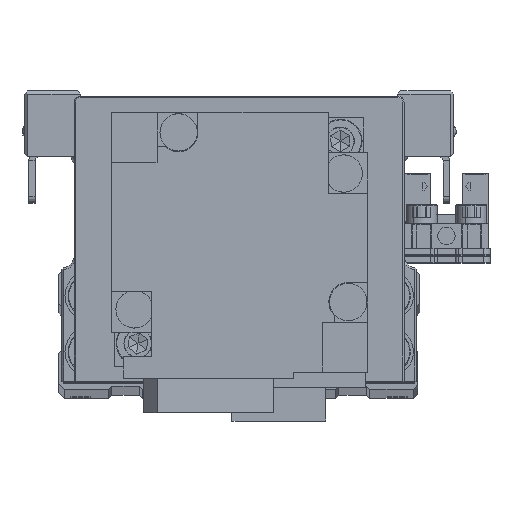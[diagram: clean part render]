
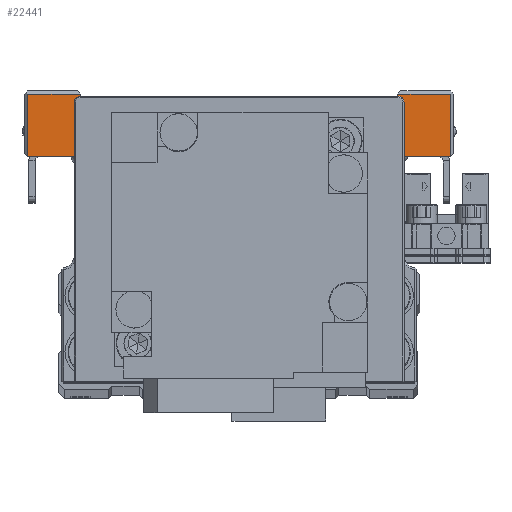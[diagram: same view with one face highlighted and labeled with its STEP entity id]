
A CAD part, top view. The second image highlights one B-rep face of the part: STEP entity #22441.
In plain terms, the highlighted planar face has unit normal (0, 0, 1) as drawn and (1, 0, 0) by its records, which use the part's own axes.
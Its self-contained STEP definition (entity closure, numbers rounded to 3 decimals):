
#28 = EDGE_CURVE ( 'NONE', #35906, #31231, #20257, .T. ) ;
#39 = VERTEX_POINT ( 'NONE', #17435 ) ;
#918 = VECTOR ( 'NONE', #33114, 1000. ) ;
#1526 = ORIENTED_EDGE ( 'NONE', *, *, #27057, .T. ) ;
#1638 = ORIENTED_EDGE ( 'NONE', *, *, #2469, .F. ) ;
#1883 = LINE ( 'NONE', #13274, #29382 ) ;
#2035 = CARTESIAN_POINT ( 'NONE',  ( 25.5, 10.5, -25.5 ) ) ;
#2253 = CARTESIAN_POINT ( 'NONE',  ( 25.5, 5., 34. ) ) ;
#2274 = EDGE_LOOP ( 'NONE', ( #1526, #29052, #21950, #14598, #10586, #31678, #11019, #18398, #1638, #26923, #2854, #8921, #10243, #36244 ) ) ;
#2469 = EDGE_CURVE ( 'NONE', #31203, #39, #24276, .T. ) ;
#2854 = ORIENTED_EDGE ( 'NONE', *, *, #9454, .T. ) ;
#2858 = VERTEX_POINT ( 'NONE', #17650 ) ;
#2953 = CARTESIAN_POINT ( 'NONE',  ( 25.5, 10.5, 25.5 ) ) ;
#4073 = EDGE_CURVE ( 'NONE', #23892, #23522, #19923, .T. ) ;
#4159 = CARTESIAN_POINT ( 'NONE',  ( 25.5, 15., 34. ) ) ;
#5423 = CARTESIAN_POINT ( 'NONE',  ( 25.5, -6., 16.2 ) ) ;
#5715 = DIRECTION ( 'NONE',  ( 0., 0., 1. ) ) ;
#6039 = DIRECTION ( 'NONE',  ( 0., 0., 1. ) ) ;
#6041 = LINE ( 'NONE', #17437, #18494 ) ;
#6072 = EDGE_CURVE ( 'NONE', #31203, #20927, #21732, .T. ) ;
#6759 = CARTESIAN_POINT ( 'NONE',  ( 25.5, 10.5, 25.5 ) ) ;
#7018 = VERTEX_POINT ( 'NONE', #27624 ) ;
#7407 = EDGE_CURVE ( 'NONE', #18502, #16661, #24079, .T. ) ;
#7519 = DIRECTION ( 'NONE',  ( 0., 0., -1. ) ) ;
#8309 = DIRECTION ( 'NONE',  ( 0., -1., 0. ) ) ;
#8921 = ORIENTED_EDGE ( 'NONE', *, *, #4073, .T. ) ;
#9454 = EDGE_CURVE ( 'NONE', #20927, #23892, #6041, .T. ) ;
#9748 = CARTESIAN_POINT ( 'NONE',  ( 25.5, 10.5, -25.5 ) ) ;
#9805 = CARTESIAN_POINT ( 'NONE',  ( 25.5, 5., 16.5 ) ) ;
#9868 = DIRECTION ( 'NONE',  ( 0., -1., 0. ) ) ;
#10056 = DIRECTION ( 'NONE',  ( 0., -1., 0. ) ) ;
#10217 = DIRECTION ( 'NONE',  ( -1., 0., 0. ) ) ;
#10243 = ORIENTED_EDGE ( 'NONE', *, *, #15204, .F. ) ;
#10330 = LINE ( 'NONE', #21740, #918 ) ;
#10586 = ORIENTED_EDGE ( 'NONE', *, *, #20750, .T. ) ;
#10844 = CARTESIAN_POINT ( 'NONE',  ( 25.5, 5., -16.5 ) ) ;
#11019 = ORIENTED_EDGE ( 'NONE', *, *, #28, .F. ) ;
#11188 = EDGE_CURVE ( 'NONE', #35906, #39, #16480, .T. ) ;
#12844 = EDGE_CURVE ( 'NONE', #16661, #25704, #1883, .T. ) ;
#13012 = FACE_OUTER_BOUND ( 'NONE', #2274, .T. ) ;
#13274 = CARTESIAN_POINT ( 'NONE',  ( 25.5, 5., -34.5 ) ) ;
#13427 = DIRECTION ( 'NONE',  ( 0., 0., -1. ) ) ;
#13595 = VECTOR ( 'NONE', #13427, 1000. ) ;
#13875 = CARTESIAN_POINT ( 'NONE',  ( 25.5, -6., -16.2 ) ) ;
#14344 = DIRECTION ( 'NONE',  ( 0., 1., 0. ) ) ;
#14598 = ORIENTED_EDGE ( 'NONE', *, *, #12844, .T. ) ;
#15204 = EDGE_CURVE ( 'NONE', #15326, #23522, #35319, .T. ) ;
#15326 = VERTEX_POINT ( 'NONE', #27462 ) ;
#15558 = DIRECTION ( 'NONE',  ( 0., 0., 1. ) ) ;
#16480 = LINE ( 'NONE', #25085, #33515 ) ;
#16661 = VERTEX_POINT ( 'NONE', #2253 ) ;
#16665 = VECTOR ( 'NONE', #6039, 1000. ) ;
#17435 = CARTESIAN_POINT ( 'NONE',  ( 25.5, -5.7, -16.5 ) ) ;
#17437 = CARTESIAN_POINT ( 'NONE',  ( 25.5, 5., -34. ) ) ;
#17650 = CARTESIAN_POINT ( 'NONE',  ( 25.5, 15., 25.5 ) ) ;
#18274 = VECTOR ( 'NONE', #15558, 1000. ) ;
#18398 = ORIENTED_EDGE ( 'NONE', *, *, #11188, .T. ) ;
#18494 = VECTOR ( 'NONE', #28824, 1000. ) ;
#18502 = VERTEX_POINT ( 'NONE', #24876 ) ;
#19573 = VECTOR ( 'NONE', #14344, 1000. ) ;
#19923 = LINE ( 'NONE', #31307, #24092 ) ;
#20105 = VERTEX_POINT ( 'NONE', #6759 ) ;
#20257 = LINE ( 'NONE', #31631, #16665 ) ;
#20457 = CARTESIAN_POINT ( 'NONE',  ( 25.5, 5., -34. ) ) ;
#20750 = EDGE_CURVE ( 'NONE', #25704, #7018, #22528, .T. ) ;
#20927 = VERTEX_POINT ( 'NONE', #20457 ) ;
#21050 = CARTESIAN_POINT ( 'NONE',  ( 25.5, 15., -34. ) ) ;
#21140 = DIRECTION ( 'NONE',  ( 0., 1., 0. ) ) ;
#21619 = DIRECTION ( 'NONE',  ( 0., 0., 1. ) ) ;
#21732 = LINE ( 'NONE', #33107, #30468 ) ;
#21740 = CARTESIAN_POINT ( 'NONE',  ( 25.5, -6., 16.2 ) ) ;
#21950 = ORIENTED_EDGE ( 'NONE', *, *, #7407, .T. ) ;
#22441 = ADVANCED_FACE ( 'NONE', ( #13012 ), #24424, .F. ) ;
#22528 = LINE ( 'NONE', #33879, #36032 ) ;
#22770 = EDGE_CURVE ( 'NONE', #2858, #18502, #29735, .T. ) ;
#23522 = VERTEX_POINT ( 'NONE', #24635 ) ;
#23892 = VERTEX_POINT ( 'NONE', #21050 ) ;
#24079 = LINE ( 'NONE', #35439, #32549 ) ;
#24092 = VECTOR ( 'NONE', #5715, 1000. ) ;
#24276 = LINE ( 'NONE', #35634, #31541 ) ;
#24424 = PLANE ( 'NONE',  #33638 ) ;
#24635 = CARTESIAN_POINT ( 'NONE',  ( 25.5, 15., -25.5 ) ) ;
#24679 = DIRECTION ( 'NONE',  ( 0., 0., -1. ) ) ;
#24876 = CARTESIAN_POINT ( 'NONE',  ( 25.5, 15., 34. ) ) ;
#25085 = CARTESIAN_POINT ( 'NONE',  ( 25.5, -6., -16.2 ) ) ;
#25704 = VERTEX_POINT ( 'NONE', #9805 ) ;
#26880 = EDGE_CURVE ( 'NONE', #20105, #15326, #27616, .T. ) ;
#26923 = ORIENTED_EDGE ( 'NONE', *, *, #6072, .T. ) ;
#27057 = EDGE_CURVE ( 'NONE', #20105, #2858, #28524, .T. ) ;
#27234 = VECTOR ( 'NONE', #21140, 1000. ) ;
#27462 = CARTESIAN_POINT ( 'NONE',  ( 25.5, 10.5, -25.5 ) ) ;
#27616 = LINE ( 'NONE', #2035, #13595 ) ;
#27624 = CARTESIAN_POINT ( 'NONE',  ( 25.5, -5.7, 16.5 ) ) ;
#28524 = LINE ( 'NONE', #2953, #19573 ) ;
#28824 = DIRECTION ( 'NONE',  ( 0., 1., 0. ) ) ;
#29052 = ORIENTED_EDGE ( 'NONE', *, *, #22770, .T. ) ;
#29382 = VECTOR ( 'NONE', #24679, 1000. ) ;
#29735 = LINE ( 'NONE', #4159, #18274 ) ;
#30468 = VECTOR ( 'NONE', #7519, 1000. ) ;
#31203 = VERTEX_POINT ( 'NONE', #10844 ) ;
#31231 = VERTEX_POINT ( 'NONE', #5423 ) ;
#31307 = CARTESIAN_POINT ( 'NONE',  ( 25.5, 15., -25.5 ) ) ;
#31541 = VECTOR ( 'NONE', #10056, 1000. ) ;
#31631 = CARTESIAN_POINT ( 'NONE',  ( 25.5, -6., 16.5 ) ) ;
#31678 = ORIENTED_EDGE ( 'NONE', *, *, #34442, .T. ) ;
#32549 = VECTOR ( 'NONE', #9868, 1000. ) ;
#33107 = CARTESIAN_POINT ( 'NONE',  ( 25.5, 5., -34.5 ) ) ;
#33114 = DIRECTION ( 'NONE',  ( 0., -0.707, -0.707 ) ) ;
#33515 = VECTOR ( 'NONE', #36452, 1000. ) ;
#33638 = AXIS2_PLACEMENT_3D ( 'NONE', #35792, #10217, #21619 ) ;
#33879 = CARTESIAN_POINT ( 'NONE',  ( 25.5, 5., 16.5 ) ) ;
#34442 = EDGE_CURVE ( 'NONE', #7018, #31231, #10330, .T. ) ;
#35319 = LINE ( 'NONE', #9748, #27234 ) ;
#35439 = CARTESIAN_POINT ( 'NONE',  ( 25.5, 5., 34. ) ) ;
#35634 = CARTESIAN_POINT ( 'NONE',  ( 25.5, 5., -16.5 ) ) ;
#35792 = CARTESIAN_POINT ( 'NONE',  ( 25.5, 5., -16.5 ) ) ;
#35906 = VERTEX_POINT ( 'NONE', #13875 ) ;
#36032 = VECTOR ( 'NONE', #8309, 1000. ) ;
#36244 = ORIENTED_EDGE ( 'NONE', *, *, #26880, .F. ) ;
#36452 = DIRECTION ( 'NONE',  ( 0., 0.707, -0.707 ) ) ;
